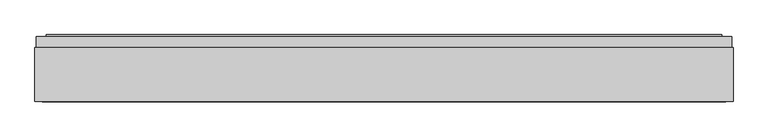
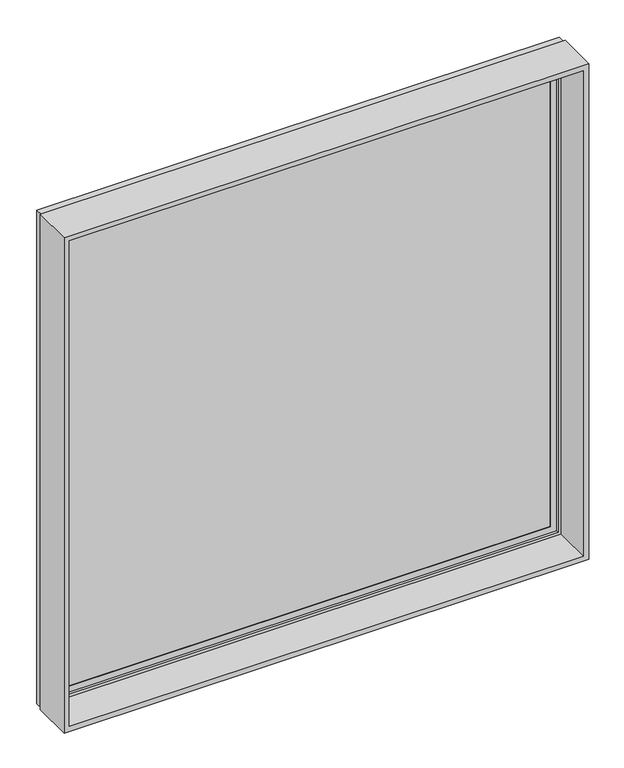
"""IFC4 building model written with IfcOpenShell, lengths in millimetres: plate geometry, SCISSOR PANEL : SCISSOR PANEL."""

from ifc_helpers import new_model, si_unit, frame, origin, place, context, project, spatial, polyline, outline, extrude, faceted_brep, source, transform, mapped, element, save


def plate_281c45c6(model_context):
    return source(origin(), model_context, "Body", "SolidModel", [
        extrude(outline(polyline([(1700.0, -851.0951718), (0.0, -851.0951718), (0.0, 851.0951718), (1700.0, 851.0951718), (1700.0, -851.0951718)]), holes=[polyline([(17.5, -833.5951718), (1682.5, -833.5951718), (1682.5, 833.5951718), (17.5, 833.5951718), (17.5, -833.5951718)])]), frame((0.0, 0.0, 0.0), z_axis=(0.0, 1.0, 0.0), x_axis=(0.0, 0.0, 1.0)), (0.0, 0.0, 1.0), 132.5),
        extrude(outline(polyline([(-820.5951718, 160.5), (820.5951718, 160.5), (820.5951718, 135.5), (-820.5951718, 135.5), (-820.5951718, 160.5)])), frame((0.0, 0.0, 30.5), z_axis=(0.0, 0.0, 1.0), x_axis=(1.0, 0.0, 0.0)), (0.0, 0.0, 1.0), 1639.0),
        faceted_brep([(-803.5951718, 135.5, 1652.5), (-803.5951718, 132.5, 1652.5), (-803.5951718, 132.5, 47.5), (-803.5951718, 135.5, 47.5), (-820.5951718, 160.5, 1669.5), (-820.5951718, 135.5, 1669.5), (-820.5951718, 135.5, 30.5), (-820.5951718, 160.5, 30.5), (-803.5951718, 163.5, 1652.5), (-803.5951718, 160.5, 1652.5), (-803.5951718, 160.5, 47.5), (-803.5951718, 163.5, 47.5), (-823.5951718, 132.5, 1672.5), (-823.5951718, 163.5, 1672.5), (-823.5951718, 163.5, 27.5), (-823.5951718, 132.5, 27.5), (803.5951718, 132.5, 47.5), (803.5951718, 135.5, 47.5), (820.5951718, 135.5, 30.5), (820.5951718, 160.5, 30.5), (803.5951718, 160.5, 47.5), (803.5951718, 163.5, 47.5), (823.5951718, 163.5, 27.5), (823.5951718, 132.5, 27.5), (803.5951718, 132.5, 1652.5), (803.5951718, 135.5, 1652.5), (820.5951718, 135.5, 1669.5), (820.5951718, 160.5, 1669.5), (803.5951718, 160.5, 1652.5), (803.5951718, 163.5, 1652.5), (823.5951718, 163.5, 1672.5), (823.5951718, 132.5, 1672.5)], [[[0, 1, 2, 3]], [[4, 5, 6, 7]], [[8, 9, 10, 11]], [[12, 13, 14, 15]], [[3, 2, 16, 17]], [[7, 6, 18, 19]], [[11, 10, 20, 21]], [[15, 14, 22, 23]], [[17, 16, 24, 25]], [[19, 18, 26, 27]], [[21, 20, 28, 29]], [[23, 22, 30, 31]], [[15, 23, 31, 12], [1, 24, 16, 2]], [[25, 24, 1, 0]], [[5, 26, 18, 6], [3, 17, 25, 0]], [[27, 26, 5, 4]], [[7, 19, 27, 4], [9, 28, 20, 10]], [[29, 28, 9, 8]], [[13, 30, 22, 14], [11, 21, 29, 8]], [[31, 30, 13, 12]]]),
        faceted_brep([(-847.5951718, 132.5, 1696.5), (-847.5951718, 158.75, 1696.5), (-847.5951718, 158.75, 3.5), (-847.5951718, 132.5, 3.5), (-840.5951718, 150.0, 1689.5), (-840.5951718, 132.5, 1689.5), (-840.5951718, 132.5, 10.5), (-840.5951718, 150.0, 10.5), (-833.5951718, 123.75, 1682.5), (-833.5951718, 150.0, 1682.5), (-833.5951718, 150.0, 17.5), (-833.5951718, 123.75, 17.5), (-823.5951718, 158.75, 1672.5), (-823.5951718, 123.75, 1672.5), (-823.5951718, 123.75, 27.5), (-823.5951718, 158.75, 27.5), (847.5951718, 158.75, 3.5), (847.5951718, 132.5, 3.5), (840.5951718, 132.5, 10.5), (840.5951718, 150.0, 10.5), (833.5951718, 150.0, 17.5), (833.5951718, 123.75, 17.5), (823.5951718, 123.75, 27.5), (823.5951718, 158.75, 27.5), (847.5951718, 158.75, 1696.5), (847.5951718, 132.5, 1696.5), (840.5951718, 132.5, 1689.5), (840.5951718, 150.0, 1689.5), (833.5951718, 150.0, 1682.5), (833.5951718, 123.75, 1682.5), (823.5951718, 123.75, 1672.5), (823.5951718, 158.75, 1672.5)], [[[0, 1, 2, 3]], [[4, 5, 6, 7]], [[8, 9, 10, 11]], [[12, 13, 14, 15]], [[3, 2, 16, 17]], [[7, 6, 18, 19]], [[11, 10, 20, 21]], [[15, 14, 22, 23]], [[17, 16, 24, 25]], [[19, 18, 26, 27]], [[21, 20, 28, 29]], [[23, 22, 30, 31]], [[25, 24, 1, 0]], [[3, 17, 25, 0], [5, 26, 18, 6]], [[27, 26, 5, 4]], [[7, 19, 27, 4], [9, 28, 20, 10]], [[29, 28, 9, 8]], [[11, 21, 29, 8], [13, 30, 22, 14]], [[31, 30, 13, 12]], [[1, 24, 16, 2], [15, 23, 31, 12]]]),
        extrude(outline(polyline([(1689.5, -840.5951718), (10.5, -840.5951718), (10.5, 840.5951718), (1689.5, 840.5951718), (1689.5, -840.5951718)]), holes=[polyline([(1682.5, -833.5951718), (1682.5, 833.5951718), (17.5, 833.5951718), (17.5, -833.5951718), (1682.5, -833.5951718)])]), frame((0.0, 132.5, 0.0), z_axis=(0.0, 1.0, 0.0), x_axis=(0.0, 0.0, 1.0)), (0.0, 0.0, 1.0), 17.5),
    ])


if __name__ == "__main__":
    model = new_model("IFC4")
    model_context = context("Model", 3, world=origin())
    ifc_project = project(units=[si_unit("LENGTHUNIT", "METRE", prefix="MILLI")], contexts=[model_context])
    site = spatial("IfcSite", under=ifc_project)
    building = spatial("IfcBuilding", under=site)
    placement = place(None, origin())
    plate_shape = plate_281c45c6(model_context)
    element("IfcPlate", 1, ObjectType="SCISSOR PANEL : SCISSOR PANEL", at=placement, inside=building, context=model_context, shape_type="MappedRepresentation", body=[
        mapped(plate_shape, transform((0.0, 0.0, 0.0), x_axis=(1.0, 0.0, 0.0), y_axis=(0.0, 1.0, 0.0), z_axis=(0.0, 0.0, 1.0))),
    ])
    save(model, "model.ifc")
